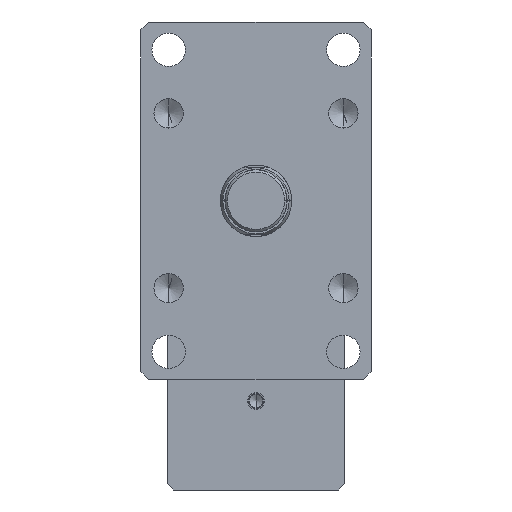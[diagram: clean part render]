
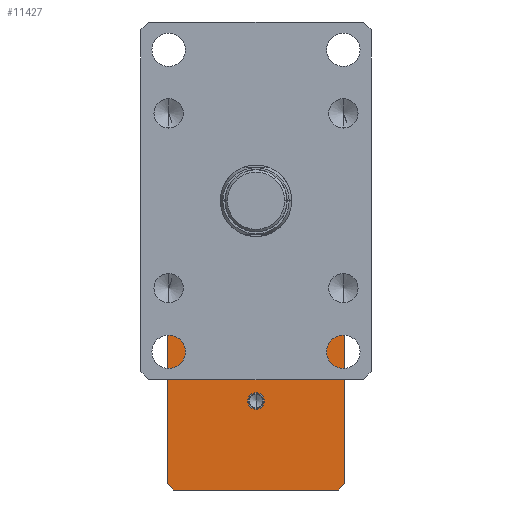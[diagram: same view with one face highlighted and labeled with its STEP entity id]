
A CAD part, left-side view. The second image highlights one B-rep face of the part: STEP entity #11427.
In plain terms, the highlighted planar face has unit normal (-1, 0, 0).
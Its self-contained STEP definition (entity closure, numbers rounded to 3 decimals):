
#20 = FACE_OUTER_BOUND ( 'NONE', #6286, .T. ) ;
#58 = CARTESIAN_POINT ( 'NONE',  ( 375., 52., -70. ) ) ;
#137 = VECTOR ( 'NONE', #7115, 1000. ) ;
#263 = LINE ( 'NONE', #275, #10500 ) ;
#272 = CARTESIAN_POINT ( 'NONE',  ( 375., -56., -182. ) ) ;
#275 = CARTESIAN_POINT ( 'NONE',  ( 375., -56., -182. ) ) ;
#369 = DIRECTION ( 'NONE',  ( 0., -0.707, -0.707 ) ) ;
#421 = CARTESIAN_POINT ( 'NONE',  ( 375., 56., -74. ) ) ;
#455 = EDGE_LOOP ( 'NONE', ( #653, #12440 ) ) ;
#602 = CARTESIAN_POINT ( 'NONE',  ( 375., -52., -182. ) ) ;
#653 = ORIENTED_EDGE ( 'NONE', *, *, #9856, .F. ) ;
#794 = VERTEX_POINT ( 'NONE', #4586 ) ;
#1012 = DIRECTION ( 'NONE',  ( 0., -0.707, 0.707 ) ) ;
#1109 = VECTOR ( 'NONE', #1455, 1000. ) ;
#1309 = DIRECTION ( 'NONE',  ( 0., 1., 0. ) ) ;
#1455 = DIRECTION ( 'NONE',  ( 0., 0.707, -0.707 ) ) ;
#1500 = AXIS2_PLACEMENT_3D ( 'NONE', #8695, #2809, #9680 ) ;
#2007 = ORIENTED_EDGE ( 'NONE', *, *, #3259, .F. ) ;
#2415 = FACE_BOUND ( 'NONE', #455, .T. ) ;
#2577 = VECTOR ( 'NONE', #7029, 1000. ) ;
#2660 = ORIENTED_EDGE ( 'NONE', *, *, #7066, .F. ) ;
#2784 = CIRCLE ( 'NONE', #1500, 5.143 ) ;
#2809 = DIRECTION ( 'NONE',  ( -1., 0., 0. ) ) ;
#2861 = LINE ( 'NONE', #3159, #137 ) ;
#3159 = CARTESIAN_POINT ( 'NONE',  ( 375., 56., -182. ) ) ;
#3259 = EDGE_CURVE ( 'NONE', #8789, #4241, #2861, .T. ) ;
#3653 = CARTESIAN_POINT ( 'NONE',  ( 375., 0., -126. ) ) ;
#4029 = ORIENTED_EDGE ( 'NONE', *, *, #12369, .T. ) ;
#4047 = LINE ( 'NONE', #4737, #6640 ) ;
#4224 = DIRECTION ( 'NONE',  ( 0., 0., -1. ) ) ;
#4225 = LINE ( 'NONE', #11814, #6819 ) ;
#4238 = LINE ( 'NONE', #272, #8496 ) ;
#4241 = VERTEX_POINT ( 'NONE', #10057 ) ;
#4302 = AXIS2_PLACEMENT_3D ( 'NONE', #3653, #10455, #4635 ) ;
#4399 = EDGE_CURVE ( 'NONE', #6530, #4241, #6109, .T. ) ;
#4586 = CARTESIAN_POINT ( 'NONE',  ( 375., 0., -131.143 ) ) ;
#4635 = DIRECTION ( 'NONE',  ( 0., 0., 1. ) ) ;
#4737 = CARTESIAN_POINT ( 'NONE',  ( 375., -56., -70. ) ) ;
#4880 = CARTESIAN_POINT ( 'NONE',  ( 375., 56., -178. ) ) ;
#4938 = CIRCLE ( 'NONE', #4302, 5.143 ) ;
#5200 = VERTEX_POINT ( 'NONE', #10215 ) ;
#5206 = CARTESIAN_POINT ( 'NONE',  ( 375., -56., -74. ) ) ;
#5298 = VERTEX_POINT ( 'NONE', #10480 ) ;
#5775 = VERTEX_POINT ( 'NONE', #6338 ) ;
#5829 = ORIENTED_EDGE ( 'NONE', *, *, #8521, .T. ) ;
#6109 = LINE ( 'NONE', #421, #1109 ) ;
#6117 = PLANE ( 'NONE',  #10743 ) ;
#6277 = DIRECTION ( 'NONE',  ( 0., 0., 1. ) ) ;
#6286 = EDGE_LOOP ( 'NONE', ( #9864, #4029, #11550, #12484, #2007, #5829, #2660, #7143 ) ) ;
#6338 = CARTESIAN_POINT ( 'NONE',  ( 375., 52., -182. ) ) ;
#6530 = VERTEX_POINT ( 'NONE', #58 ) ;
#6640 = VECTOR ( 'NONE', #10549, 1000. ) ;
#6819 = VECTOR ( 'NONE', #1012, 1000. ) ;
#7029 = DIRECTION ( 'NONE',  ( 0., 0.707, 0.707 ) ) ;
#7066 = EDGE_CURVE ( 'NONE', #11222, #5775, #263, .T. ) ;
#7115 = DIRECTION ( 'NONE',  ( 0., 0., 1. ) ) ;
#7143 = ORIENTED_EDGE ( 'NONE', *, *, #8926, .T. ) ;
#7239 = CARTESIAN_POINT ( 'NONE',  ( 375., -56., -178. ) ) ;
#7869 = VECTOR ( 'NONE', #369, 1000. ) ;
#8066 = CARTESIAN_POINT ( 'NONE',  ( 375., -56., -182. ) ) ;
#8166 = LINE ( 'NONE', #11207, #7869 ) ;
#8464 = EDGE_CURVE ( 'NONE', #12412, #5200, #4238, .T. ) ;
#8496 = VECTOR ( 'NONE', #6277, 1000. ) ;
#8521 = EDGE_CURVE ( 'NONE', #8789, #5775, #8166, .T. ) ;
#8695 = CARTESIAN_POINT ( 'NONE',  ( 375., 0., -126. ) ) ;
#8789 = VERTEX_POINT ( 'NONE', #4880 ) ;
#8926 = EDGE_CURVE ( 'NONE', #11222, #12412, #4225, .T. ) ;
#9680 = DIRECTION ( 'NONE',  ( 0., 0., 1. ) ) ;
#9856 = EDGE_CURVE ( 'NONE', #11278, #794, #2784, .T. ) ;
#9864 = ORIENTED_EDGE ( 'NONE', *, *, #8464, .T. ) ;
#10036 = DIRECTION ( 'NONE',  ( 1., 0., 0. ) ) ;
#10057 = CARTESIAN_POINT ( 'NONE',  ( 375., 56., -74. ) ) ;
#10083 = LINE ( 'NONE', #5206, #2577 ) ;
#10215 = CARTESIAN_POINT ( 'NONE',  ( 375., -56., -74. ) ) ;
#10251 = EDGE_CURVE ( 'NONE', #5298, #6530, #4047, .T. ) ;
#10455 = DIRECTION ( 'NONE',  ( -1., 0., 0. ) ) ;
#10480 = CARTESIAN_POINT ( 'NONE',  ( 375., -52., -70. ) ) ;
#10500 = VECTOR ( 'NONE', #1309, 1000. ) ;
#10549 = DIRECTION ( 'NONE',  ( 0., 1., 0. ) ) ;
#10574 = CARTESIAN_POINT ( 'NONE',  ( 375., 0., -120.857 ) ) ;
#10743 = AXIS2_PLACEMENT_3D ( 'NONE', #8066, #10036, #4224 ) ;
#11186 = EDGE_CURVE ( 'NONE', #794, #11278, #4938, .T. ) ;
#11207 = CARTESIAN_POINT ( 'NONE',  ( 375., 52., -182. ) ) ;
#11222 = VERTEX_POINT ( 'NONE', #602 ) ;
#11278 = VERTEX_POINT ( 'NONE', #10574 ) ;
#11427 = ADVANCED_FACE ( 'NONE', ( #2415, #20 ), #6117, .F. ) ;
#11550 = ORIENTED_EDGE ( 'NONE', *, *, #10251, .T. ) ;
#11814 = CARTESIAN_POINT ( 'NONE',  ( 375., -52., -182. ) ) ;
#12369 = EDGE_CURVE ( 'NONE', #5200, #5298, #10083, .T. ) ;
#12412 = VERTEX_POINT ( 'NONE', #7239 ) ;
#12440 = ORIENTED_EDGE ( 'NONE', *, *, #11186, .F. ) ;
#12484 = ORIENTED_EDGE ( 'NONE', *, *, #4399, .T. ) ;
